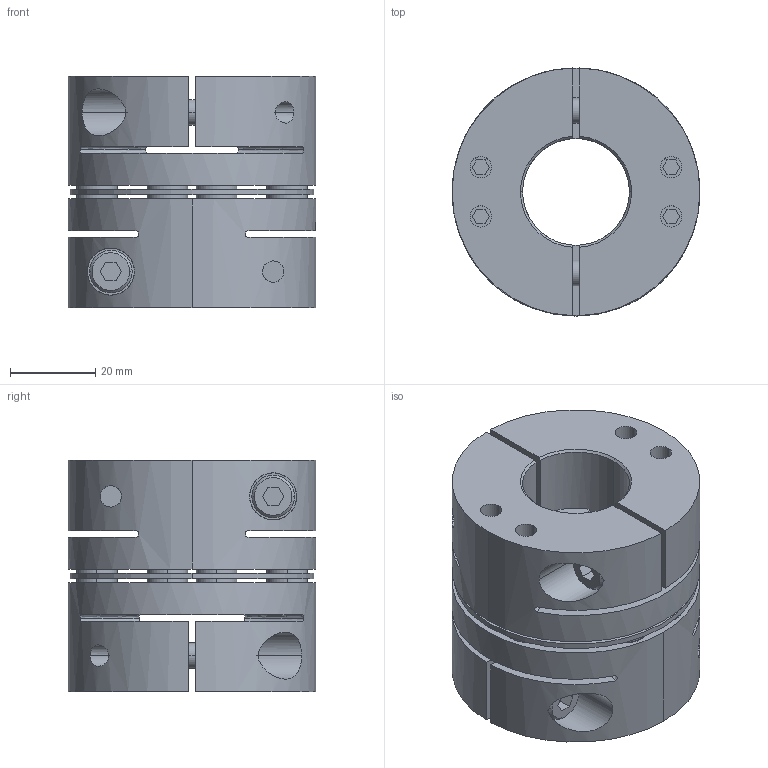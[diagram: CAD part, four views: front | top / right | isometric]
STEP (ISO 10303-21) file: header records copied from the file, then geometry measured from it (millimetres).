
FILE_DESCRIPTION((''),'2;1');
FILE_NAME('TAS-58C-25×28.stp','2022-11-14T22:26:18',(''),(''),'AutoCAD STEP 2000i','AutoCAD 2000i',', , ');
FILE_SCHEMA(('CONFIG_CONTROL_DESIGN'));
Length unit declared in the file: millimetre
Products named in the file (7): TAS-58C-22×22; 忣兜1; TA58C-22-2; CAP-M6×20; TA58C-22; TA58C-12-2; TA58C-12
Assembly tree (9 placements, depth 3):
  TAS-58C-22×22
    忣兜1
    TA58C-22-2
      CAP-M6×20
    TA58C-22
      CAP-M6×20
    TA58C-12-2
      CAP-M6×20
    TA58C-12
      CAP-M6×20
Bounding box: 58 x 58 x 54.25 mm (x, y, z)
Volume: 95308.9 mm3; surface area: 40323.4 mm2
Topology: 1 solids, 1 shells, 360 faces, 903 edges, 645 vertices
Faces by surface type: plane 160, cylinder 148, cone 36, bspline 16
Entity records: 12875 total; most frequent: CARTESIAN_POINT 3843, DIRECTION 1936, ORIENTED_EDGE 1720, EDGE_CURVE 860, AXIS2_PLACEMENT_3D 735, VERTEX_POINT 564, VECTOR 466, LINE 466
